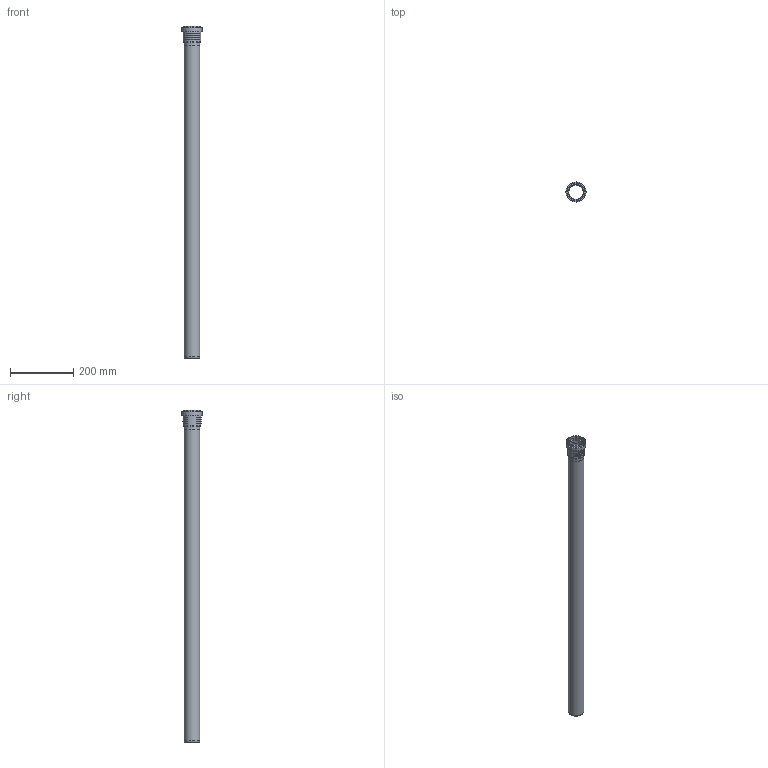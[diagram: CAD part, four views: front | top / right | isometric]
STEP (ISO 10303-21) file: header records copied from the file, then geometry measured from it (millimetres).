
FILE_DESCRIPTION(/* description */ (''),/* implementation_level */ '2;1');
FILE_NAME(/* name */ 'Z:\Geberit\Export\NewStep\390204.stp',/* time_stamp */ '2014-04-02T08:09:34+02:00',/* author */ ('ML'),/* organization */ (''),/* preprocessor_version */ 'ST-DEVELOPER v15.2',/* originating_system */ 'Autodesk Inventor 2014',/* authorisation */ '');
FILE_SCHEMA (('AUTOMOTIVE_DESIGN { 1 0 10303 214 3 1 1 }'));
Length unit declared in the file: millimetre
Products named in the file (3): 861420; 861582ohne; 390204
Bounding box: 63.5 x 63.5 x 1050.8 mm (x, y, z)
Volume: 326578.5 mm3; surface area: 328145.3 mm2
Topology: 2 solids, 2 shells, 47 faces, 104 edges, 71 vertices
Faces by surface type: torus 24, cylinder 11, plane 10, cone 2
Full cylindrical faces by diameter (mm): 46.15 x2, 50.15 x2, 50.8 x2, 52.8 x1, 54.8 x2, 59.5 x1, 63.5 x1
Entity records: 1971 total; most frequent: CARTESIAN_POINT 930, DIRECTION 182, ORIENTED_EDGE 174, AXIS2_PLACEMENT_3D 91, EDGE_CURVE 87, EDGE_LOOP 78, VERTEX_POINT 71, STYLED_ITEM 49
